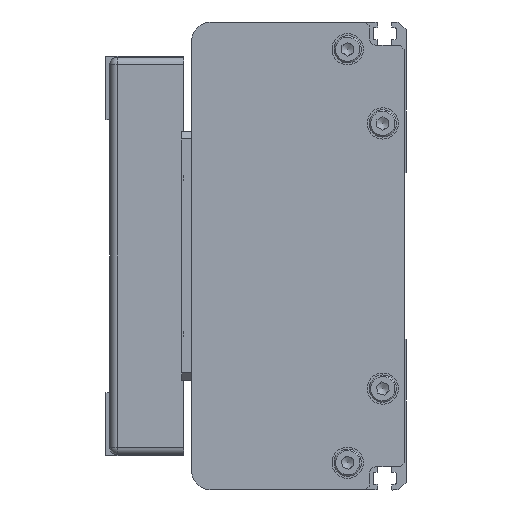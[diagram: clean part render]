
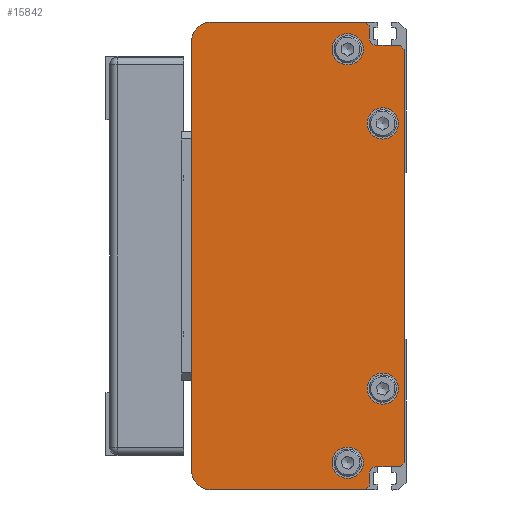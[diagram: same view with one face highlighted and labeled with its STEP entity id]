
A CAD part, left-side view. The second image highlights one B-rep face of the part: STEP entity #15842.
In plain terms, the highlighted planar face has unit normal (-1, 0, 0) as drawn and (0, 0, -1) by its records, which use the part's own axes.
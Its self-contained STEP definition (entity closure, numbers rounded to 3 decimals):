
#828=FACE_BOUND('',#2607,.T.);
#829=FACE_BOUND('',#2608,.T.);
#830=FACE_BOUND('',#2609,.T.);
#831=FACE_BOUND('',#2610,.T.);
#1144=CIRCLE('',#16974,5.);
#1145=CIRCLE('',#16976,5.);
#1146=CIRCLE('',#16977,2.);
#1147=CIRCLE('',#16978,2.);
#1148=CIRCLE('',#16979,4.);
#1149=CIRCLE('',#16980,4.);
#1150=CIRCLE('',#16981,4.);
#1151=CIRCLE('',#16982,4.);
#1576=FACE_OUTER_BOUND('',#2606,.T.);
#2606=EDGE_LOOP('',(#10908,#10909,#10910,#10911,#10912,#10913,#10914,#10915,
#10916,#10917,#10918,#10919,#10920,#10921,#10922,#10923));
#2607=EDGE_LOOP('',(#10924));
#2608=EDGE_LOOP('',(#10925));
#2609=EDGE_LOOP('',(#10926));
#2610=EDGE_LOOP('',(#10927));
#3849=LINE('',#22665,#5374);
#3850=LINE('',#22667,#5375);
#3851=LINE('',#22670,#5376);
#3852=LINE('',#22672,#5377);
#3853=LINE('',#22674,#5378);
#3854=LINE('',#22676,#5379);
#3855=LINE('',#22680,#5380);
#3856=LINE('',#22682,#5381);
#3857=LINE('',#22684,#5382);
#3858=LINE('',#22686,#5383);
#3859=LINE('',#22688,#5384);
#3860=LINE('',#22691,#5385);
#5374=VECTOR('',#18502,1.414);
#5375=VECTOR('',#18503,39.5);
#5376=VECTOR('',#18506,110.);
#5377=VECTOR('',#18507,39.5);
#5378=VECTOR('',#18508,1.414);
#5379=VECTOR('',#18509,3.);
#5380=VECTOR('',#18512,6.);
#5381=VECTOR('',#18513,1.414);
#5382=VECTOR('',#18514,106.);
#5383=VECTOR('',#18515,1.414);
#5384=VECTOR('',#18516,6.);
#5385=VECTOR('',#18519,3.);
#6933=VERTEX_POINT('',#22657);
#6934=VERTEX_POINT('',#22659);
#6935=VERTEX_POINT('',#22663);
#6936=VERTEX_POINT('',#22664);
#6937=VERTEX_POINT('',#22666);
#6938=VERTEX_POINT('',#22668);
#6939=VERTEX_POINT('',#22671);
#6940=VERTEX_POINT('',#22673);
#6941=VERTEX_POINT('',#22675);
#6942=VERTEX_POINT('',#22677);
#6943=VERTEX_POINT('',#22679);
#6944=VERTEX_POINT('',#22681);
#6945=VERTEX_POINT('',#22683);
#6946=VERTEX_POINT('',#22685);
#6947=VERTEX_POINT('',#22687);
#6948=VERTEX_POINT('',#22689);
#6949=VERTEX_POINT('',#22692);
#6950=VERTEX_POINT('',#22694);
#6951=VERTEX_POINT('',#22696);
#6952=VERTEX_POINT('',#22698);
#8519=EDGE_CURVE('',#6933,#6934,#1144,.T.);
#8521=EDGE_CURVE('',#6935,#6936,#3849,.T.);
#8522=EDGE_CURVE('',#6935,#6937,#3850,.T.);
#8523=EDGE_CURVE('',#6938,#6937,#1145,.T.);
#8524=EDGE_CURVE('',#6938,#6934,#3851,.T.);
#8525=EDGE_CURVE('',#6933,#6939,#3852,.T.);
#8526=EDGE_CURVE('',#6940,#6939,#3853,.T.);
#8527=EDGE_CURVE('',#6940,#6941,#3854,.T.);
#8528=EDGE_CURVE('',#6941,#6942,#1146,.T.);
#8529=EDGE_CURVE('',#6942,#6943,#3855,.T.);
#8530=EDGE_CURVE('',#6944,#6943,#3856,.T.);
#8531=EDGE_CURVE('',#6944,#6945,#3857,.T.);
#8532=EDGE_CURVE('',#6946,#6945,#3858,.T.);
#8533=EDGE_CURVE('',#6946,#6947,#3859,.T.);
#8534=EDGE_CURVE('',#6947,#6948,#1147,.T.);
#8535=EDGE_CURVE('',#6948,#6936,#3860,.T.);
#8536=EDGE_CURVE('',#6949,#6949,#1148,.T.);
#8537=EDGE_CURVE('',#6950,#6950,#1149,.T.);
#8538=EDGE_CURVE('',#6951,#6951,#1150,.T.);
#8539=EDGE_CURVE('',#6952,#6952,#1151,.T.);
#10908=ORIENTED_EDGE('',*,*,#8521,.F.);
#10909=ORIENTED_EDGE('',*,*,#8522,.T.);
#10910=ORIENTED_EDGE('',*,*,#8523,.F.);
#10911=ORIENTED_EDGE('',*,*,#8524,.T.);
#10912=ORIENTED_EDGE('',*,*,#8519,.F.);
#10913=ORIENTED_EDGE('',*,*,#8525,.T.);
#10914=ORIENTED_EDGE('',*,*,#8526,.F.);
#10915=ORIENTED_EDGE('',*,*,#8527,.T.);
#10916=ORIENTED_EDGE('',*,*,#8528,.T.);
#10917=ORIENTED_EDGE('',*,*,#8529,.T.);
#10918=ORIENTED_EDGE('',*,*,#8530,.F.);
#10919=ORIENTED_EDGE('',*,*,#8531,.T.);
#10920=ORIENTED_EDGE('',*,*,#8532,.F.);
#10921=ORIENTED_EDGE('',*,*,#8533,.T.);
#10922=ORIENTED_EDGE('',*,*,#8534,.T.);
#10923=ORIENTED_EDGE('',*,*,#8535,.T.);
#10924=ORIENTED_EDGE('',*,*,#8536,.T.);
#10925=ORIENTED_EDGE('',*,*,#8537,.T.);
#10926=ORIENTED_EDGE('',*,*,#8538,.T.);
#10927=ORIENTED_EDGE('',*,*,#8539,.T.);
#15218=PLANE('',#16975);
#15842=ADVANCED_FACE('',(#1576,#828,#829,#830,#831),#15218,.F.);
#16974=AXIS2_PLACEMENT_3D('',#22660,#18497,#18498);
#16975=AXIS2_PLACEMENT_3D('',#22662,#18500,#18501);
#16976=AXIS2_PLACEMENT_3D('',#22669,#18504,#18505);
#16977=AXIS2_PLACEMENT_3D('',#22678,#18510,#18511);
#16978=AXIS2_PLACEMENT_3D('',#22690,#18517,#18518);
#16979=AXIS2_PLACEMENT_3D('',#22693,#18520,#18521);
#16980=AXIS2_PLACEMENT_3D('',#22695,#18522,#18523);
#16981=AXIS2_PLACEMENT_3D('',#22697,#18524,#18525);
#16982=AXIS2_PLACEMENT_3D('',#22699,#18526,#18527);
#18497=DIRECTION('center_axis',(0.,0.,
1.));
#18498=DIRECTION('ref_axis',(0.707,0.707,0.));
#18500=DIRECTION('center_axis',(0.,0.,
1.));
#18501=DIRECTION('ref_axis',(-1.,-0.018,0.));
#18502=DIRECTION('',(0.707,-0.707,0.));
#18503=DIRECTION('',(0.,1.,0.));
#18504=DIRECTION('center_axis',(0.,0.,
1.));
#18505=DIRECTION('ref_axis',(-0.707,0.707,0.));
#18506=DIRECTION('',(1.,0.,0.));
#18507=DIRECTION('',(0.,-1.,0.));
#18508=DIRECTION('',(0.707,0.707,0.));
#18509=DIRECTION('',(-1.,0.,0.));
#18510=DIRECTION('center_axis',(0.,0.,
1.));
#18511=DIRECTION('ref_axis',(0.,-1.,0.));
#18512=DIRECTION('',(0.,-1.,0.));
#18513=DIRECTION('',(0.707,0.707,0.));
#18514=DIRECTION('',(-1.,0.,0.));
#18515=DIRECTION('',(0.707,-0.707,0.));
#18516=DIRECTION('',(0.,1.,0.));
#18517=DIRECTION('center_axis',(0.,0.,
1.));
#18518=DIRECTION('ref_axis',(1.,0.,0.));
#18519=DIRECTION('',(-1.,0.,0.));
#18520=DIRECTION('center_axis',(0.,0.,
1.));
#18521=DIRECTION('ref_axis',(0.,1.,0.));
#18522=DIRECTION('center_axis',(0.,0.,
1.));
#18523=DIRECTION('ref_axis',(0.,1.,0.));
#18524=DIRECTION('center_axis',(0.,0.,
1.));
#18525=DIRECTION('ref_axis',(0.,1.,0.));
#18526=DIRECTION('center_axis',(0.,0.,
1.));
#18527=DIRECTION('ref_axis',(0.,1.,0.));
#22657=CARTESIAN_POINT('',(124.75,50.75,-842.5));
#22659=CARTESIAN_POINT('',(119.75,55.75,-842.5));
#22660=CARTESIAN_POINT('Origin',(119.75,50.75,-842.5));
#22662=CARTESIAN_POINT('Origin',(64.75,28.5,-842.5));
#22663=CARTESIAN_POINT('',(4.75,11.25,-842.5));
#22664=CARTESIAN_POINT('',(5.75,10.25,-842.5));
#22665=CARTESIAN_POINT('',(4.75,11.25,-842.5));
#22666=CARTESIAN_POINT('',(4.75,50.75,-842.5));
#22667=CARTESIAN_POINT('',(4.75,11.25,-842.5));
#22668=CARTESIAN_POINT('',(9.75,55.75,-842.5));
#22669=CARTESIAN_POINT('Origin',(9.75,50.75,-842.5));
#22670=CARTESIAN_POINT('',(9.75,55.75,-842.5));
#22671=CARTESIAN_POINT('',(124.75,11.25,-842.5));
#22672=CARTESIAN_POINT('',(124.75,50.75,-842.5));
#22673=CARTESIAN_POINT('',(123.75,10.25,-842.5));
#22674=CARTESIAN_POINT('',(123.75,10.25,-842.5));
#22675=CARTESIAN_POINT('',(120.75,10.25,-842.5));
#22676=CARTESIAN_POINT('',(123.75,10.25,-842.5));
#22677=CARTESIAN_POINT('',(118.75,8.25,-842.5));
#22678=CARTESIAN_POINT('Origin',(120.75,8.25,-842.5));
#22679=CARTESIAN_POINT('',(118.75,2.25,-842.5));
#22680=CARTESIAN_POINT('',(118.75,8.25,-842.5));
#22681=CARTESIAN_POINT('',(117.75,1.25,-842.5));
#22682=CARTESIAN_POINT('',(117.75,1.25,-842.5));
#22683=CARTESIAN_POINT('',(11.75,1.25,-842.5));
#22684=CARTESIAN_POINT('',(117.75,1.25,-842.5));
#22685=CARTESIAN_POINT('',(10.75,2.25,-842.5));
#22686=CARTESIAN_POINT('',(10.75,2.25,-842.5));
#22687=CARTESIAN_POINT('',(10.75,8.25,-842.5));
#22688=CARTESIAN_POINT('',(10.75,2.25,-842.5));
#22689=CARTESIAN_POINT('',(8.75,10.25,-842.5));
#22690=CARTESIAN_POINT('Origin',(8.75,8.25,-842.5));
#22691=CARTESIAN_POINT('',(8.75,10.25,-842.5));
#22692=CARTESIAN_POINT('',(30.75,10.75,-842.5));
#22693=CARTESIAN_POINT('Origin',(30.75,6.75,-842.5));
#22694=CARTESIAN_POINT('',(98.75,10.75,-842.5));
#22695=CARTESIAN_POINT('Origin',(98.75,6.75,-842.5));
#22696=CARTESIAN_POINT('',(11.75,19.75,-842.5));
#22697=CARTESIAN_POINT('Origin',(11.75,15.75,-842.5));
#22698=CARTESIAN_POINT('',(117.75,19.75,-842.5));
#22699=CARTESIAN_POINT('Origin',(117.75,15.75,-842.5));
